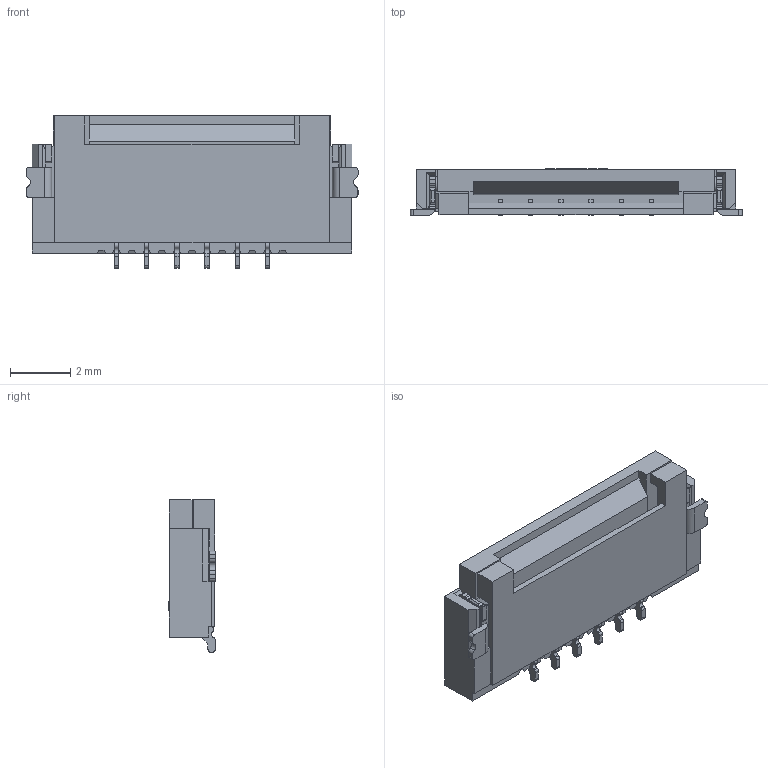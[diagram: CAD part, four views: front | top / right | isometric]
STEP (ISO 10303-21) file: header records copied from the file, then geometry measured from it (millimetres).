
FILE_DESCRIPTION (( 'STEP AP203' ), '1' );
FILE_NAME ('GT-F1006SR15-06S0101.STEP', '2023-12-27T08:24:09', ( 'Microsoft' ), ( 'Microsoft' ), 'SwSTEP 2.0', 'SolidWorks 2023', '' );
FILE_SCHEMA (( 'CONFIG_CONTROL_DESIGN' ));
Length unit declared in the file: millimetre
Products named in the file (1): GT-F1006SR15-06S0101
Bounding box: 11 x 1.54 x 5.05 mm (x, y, z)
Volume: 47.7 mm3; surface area: 226.6 mm2
Topology: 1 solids, 1 shells, 944 faces, 2710 edges, 1788 vertices
Faces by surface type: plane 705, cylinder 165, bspline 74
Entity records: 34287 total; most frequent: CARTESIAN_POINT 9705, ORIENTED_EDGE 5420, DIRECTION 4628, EDGE_CURVE 2710, VECTOR 2190, LINE 2190, VERTEX_POINT 1788, AXIS2_PLACEMENT_3D 1219
